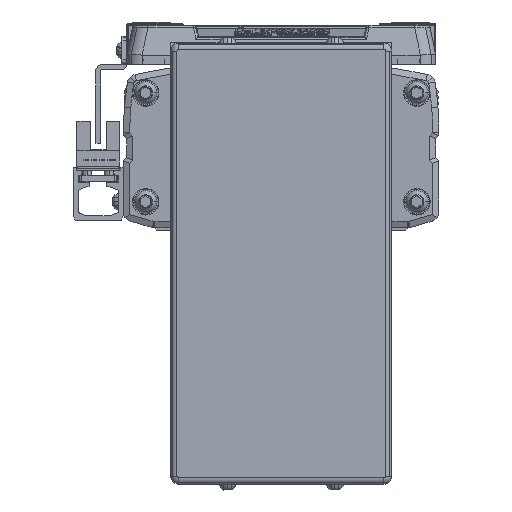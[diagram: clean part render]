
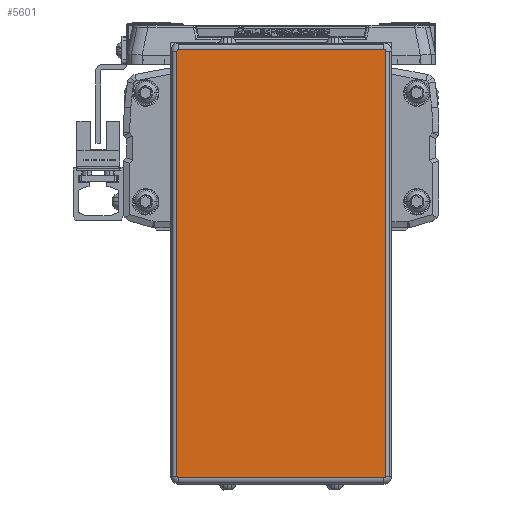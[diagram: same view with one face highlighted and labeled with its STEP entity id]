
A CAD part, left-side view. The second image highlights one B-rep face of the part: STEP entity #5601.
In plain terms, the highlighted planar face has unit normal (-1, 0, 0).
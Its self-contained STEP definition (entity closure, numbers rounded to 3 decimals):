
#5601=ADVANCED_FACE('',(#12308),#12309,.F.);
#12308=FACE_OUTER_BOUND('',#20641,.T.);
#12309=PLANE('',#20642);
#20641=EDGE_LOOP('',(#36451,#36452,#36453,#36454,#36455,#36456,#36457,#36458));
#20642=AXIS2_PLACEMENT_3D('',#36459,#36460,#36461);
#36451=ORIENTED_EDGE('',*,*,#51435,.T.);
#36452=ORIENTED_EDGE('',*,*,#49739,.T.);
#36453=ORIENTED_EDGE('',*,*,#53518,.T.);
#36454=ORIENTED_EDGE('',*,*,#52485,.T.);
#36455=ORIENTED_EDGE('',*,*,#52378,.T.);
#36456=ORIENTED_EDGE('',*,*,#53005,.T.);
#36457=ORIENTED_EDGE('',*,*,#53519,.T.);
#36458=ORIENTED_EDGE('',*,*,#53481,.T.);
#36459=CARTESIAN_POINT('',(-616.0,0.,-41.6));
#36460=DIRECTION('',(1.0,0.,0.));
#36461=DIRECTION('',(0.,0.,1.0));
#49739=EDGE_CURVE('',#60464,#60461,#60465,.T.);
#51435=EDGE_CURVE('',#63185,#60464,#63186,.T.);
#52378=EDGE_CURVE('',#64572,#64570,#64573,.T.);
#52485=EDGE_CURVE('',#64722,#64572,#64723,.T.);
#53005=EDGE_CURVE('',#64570,#65453,#65455,.T.);
#53481=EDGE_CURVE('',#66100,#63185,#66101,.T.);
#53518=EDGE_CURVE('',#60461,#64722,#66146,.T.);
#53519=EDGE_CURVE('',#65453,#66100,#66147,.T.);
#60461=VERTEX_POINT('',#74972);
#60464=VERTEX_POINT('',#74975);
#60465=CIRCLE('',#74976,0.5);
#63185=VERTEX_POINT('',#78848);
#63186=LINE('',#78849,#78850);
#64570=VERTEX_POINT('',#80751);
#64572=VERTEX_POINT('',#80753);
#64573=LINE('',#80754,#80755);
#64722=VERTEX_POINT('',#80966);
#64723=CIRCLE('',#80967,0.5);
#65453=VERTEX_POINT('',#81974);
#65455=CIRCLE('',#81976,0.5);
#66100=VERTEX_POINT('',#82897);
#66101=CIRCLE('',#82898,0.5);
#66146=LINE('',#82954,#82955);
#66147=LINE('',#82956,#82957);
#74972=CARTESIAN_POINT('',(-616.,-32.55,26.3));
#74975=CARTESIAN_POINT('',(-616.,-33.05,25.8));
#74976=AXIS2_PLACEMENT_3D('',#90614,#90615,#90616);
#78848=CARTESIAN_POINT('',(-616.0,-33.05,-109.));
#78849=CARTESIAN_POINT('',(-616.0,-33.05,-41.6));
#78850=VECTOR('',#92950,10.0);
#80751=CARTESIAN_POINT('',(-616.,33.05,-109.));
#80753=CARTESIAN_POINT('',(-616.0,33.05,25.8));
#80754=CARTESIAN_POINT('',(-616.0,33.05,-41.6));
#80755=VECTOR('',#94130,10.0);
#80966=CARTESIAN_POINT('',(-616.0,32.55,26.3));
#80967=AXIS2_PLACEMENT_3D('',#94234,#94235,#94236);
#81974=CARTESIAN_POINT('',(-616.,32.55,-109.5));
#81976=AXIS2_PLACEMENT_3D('',#94944,#94945,#94946);
#82897=CARTESIAN_POINT('',(-616.0,-32.55,-109.5));
#82898=AXIS2_PLACEMENT_3D('',#95509,#95510,#95511);
#82954=CARTESIAN_POINT('',(-616.,0.,26.3));
#82955=VECTOR('',#95556,10.0);
#82956=CARTESIAN_POINT('',(-616.0,0.,-109.5));
#82957=VECTOR('',#95557,10.0);
#90614=CARTESIAN_POINT('',(-616.,-32.55,25.8));
#90615=DIRECTION('',(-1.0,0.,0.));
#90616=DIRECTION('',(0.,-0.707,0.707));
#92950=DIRECTION('',(0.,0.,1.0));
#94130=DIRECTION('',(0.,0.,-1.0));
#94234=CARTESIAN_POINT('',(-616.0,32.55,25.8));
#94235=DIRECTION('',(-1.0,0.,0.));
#94236=DIRECTION('',(0.,0.707,0.707));
#94944=CARTESIAN_POINT('',(-616.,32.55,-109.));
#94945=DIRECTION('',(-1.0,0.,0.));
#94946=DIRECTION('',(0.,0.707,-0.707));
#95509=CARTESIAN_POINT('',(-616.0,-32.55,-109.));
#95510=DIRECTION('',(-1.0,0.,0.));
#95511=DIRECTION('',(0.,-0.707,-0.707));
#95556=DIRECTION('',(0.,1.0,0.));
#95557=DIRECTION('',(0.,-1.0,0.));
